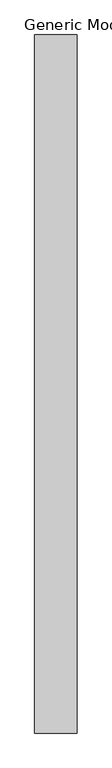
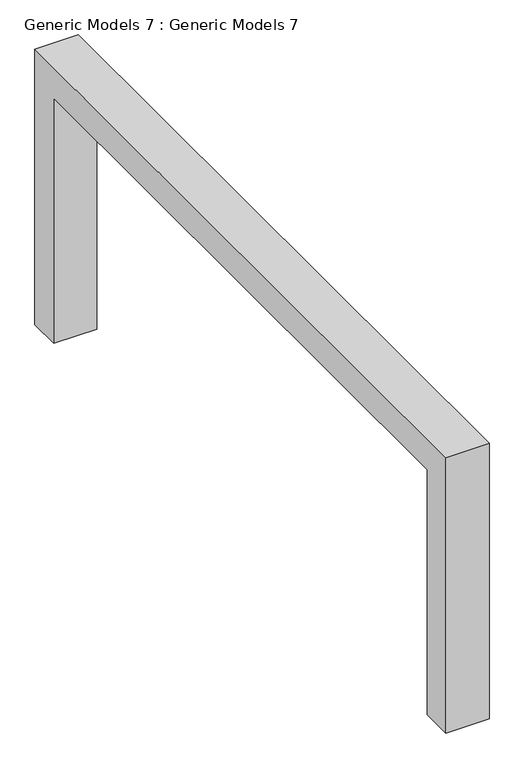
"""IFC4 building model written with IfcOpenShell, lengths in millimetres: proxy geometry, Generic Models 7 : Generic Models 7."""

from ifc_helpers import new_model, si_unit, frame, origin, place, context, project, spatial, polyline, outline, extrude, source, transform, mapped, element, save


def generic_models_7_generic_models_7_ece231a0(model_context):
    return source(origin(), model_context, "Body", "SweptSolid", [
        extrude(outline(polyline([(587.7866664, 2400.0), (-5409.0133336, 2400.0), (-5409.0133336, 0.0), (-5709.0133336, 0.0), (-5709.0133336, 2700.0), (887.7866664, 2700.0), (887.7866664, 0.0), (587.7866664, 0.0), (587.7866664, 2400.0)])), frame((10077.9525098, 0.0, 0.0), z_axis=(1.0, 0.0, 0.0), x_axis=(0.0, 1.0, 0.0)), (0.0, 0.0, 1.0), 400.0),
    ])


if __name__ == "__main__":
    model = new_model("IFC4")
    model_context = context("Model", 3, world=origin())
    ifc_project = project(units=[si_unit("LENGTHUNIT", "METRE", prefix="MILLI")], contexts=[model_context])
    site = spatial("IfcSite", under=ifc_project)
    building = spatial("IfcBuilding", under=site)
    placement = place(None, origin())
    generic_models_7_generic_models_7_shape = generic_models_7_generic_models_7_ece231a0(model_context)
    element("IfcBuildingElementProxy", 1, Name="Generic Models 7 : Generic Models 7", ObjectType="Generic Models 7 : Generic Models 7", at=placement, inside=building, context=model_context, shape_type="MappedRepresentation", body=[
        mapped(generic_models_7_generic_models_7_shape, transform((0.0, 0.0, 0.0), x_axis=(1.0, 0.0, 0.0), y_axis=(0.0, 1.0, 0.0), z_axis=(0.0, 0.0, 1.0))),
    ])
    save(model, "model.ifc")
